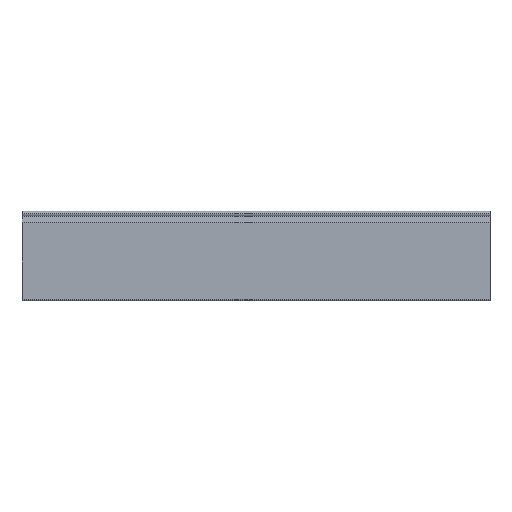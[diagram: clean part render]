
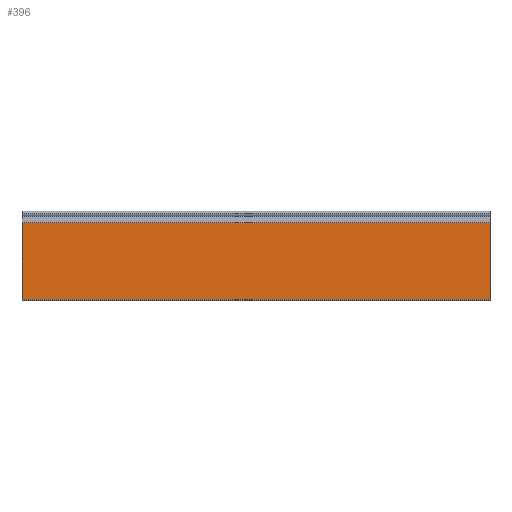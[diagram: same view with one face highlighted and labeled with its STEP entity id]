
A CAD part, top view. The second image highlights one B-rep face of the part: STEP entity #396.
In plain terms, the highlighted planar face has unit normal (0, 0, 1).
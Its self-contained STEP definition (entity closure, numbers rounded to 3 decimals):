
#48 = CARTESIAN_POINT ( 'NONE',  ( 333., -12.164, 4.05 ) ) ;
#49 = PLANE ( 'NONE',  #310 ) ;
#51 = DIRECTION ( 'NONE',  ( 0., 0., -1. ) ) ;
#52 = DIRECTION ( 'NONE',  ( 0., 1., 0. ) ) ;
#75 = CARTESIAN_POINT ( 'NONE',  ( 333., -12.164, 4.05 ) ) ;
#77 = CARTESIAN_POINT ( 'NONE',  ( 333., -121.663, 4.05 ) ) ;
#103 = CARTESIAN_POINT ( 'NONE',  ( 333., -12.164, 4.05 ) ) ;
#115 = DIRECTION ( 'NONE',  ( 0., -1., 0. ) ) ;
#250 = EDGE_LOOP ( 'NONE', ( #873, #875, #872, #871 ) ) ;
#310 = AXIS2_PLACEMENT_3D ( 'NONE', #48, #51, #52 ) ;
#396 = ADVANCED_FACE ( 'NONE', ( #830 ), #49, .F. ) ;
#420 = VERTEX_POINT ( 'NONE', #75 ) ;
#448 = CARTESIAN_POINT ( 'NONE',  ( -333., -121.663, 4.05 ) ) ;
#491 = VERTEX_POINT ( 'NONE', #77 ) ;
#511 = EDGE_CURVE ( 'NONE', #420, #491, #977, .T. ) ;
#572 = EDGE_CURVE ( 'NONE', #594, #621, #1073, .T. ) ;
#584 = EDGE_CURVE ( 'NONE', #420, #594, #1097, .T. ) ;
#585 = EDGE_CURVE ( 'NONE', #491, #621, #1099, .T. ) ;
#594 = VERTEX_POINT ( 'NONE', #1312 ) ;
#621 = VERTEX_POINT ( 'NONE', #448 ) ;
#830 = FACE_OUTER_BOUND ( 'NONE', #250, .T. ) ;
#871 = ORIENTED_EDGE ( 'NONE', *, *, #584, .T. ) ;
#872 = ORIENTED_EDGE ( 'NONE', *, *, #511, .F. ) ;
#873 = ORIENTED_EDGE ( 'NONE', *, *, #572, .T. ) ;
#875 = ORIENTED_EDGE ( 'NONE', *, *, #585, .F. ) ;
#972 = VECTOR ( 'NONE', #115, 1000. ) ;
#977 = LINE ( 'NONE', #103, #972 ) ;
#1070 = VECTOR ( 'NONE', #1298, 1000. ) ;
#1073 = LINE ( 'NONE', #1289, #1070 ) ;
#1097 = LINE ( 'NONE', #1323, #1098 ) ;
#1098 = VECTOR ( 'NONE', #1324, 1000. ) ;
#1099 = LINE ( 'NONE', #1325, #1100 ) ;
#1100 = VECTOR ( 'NONE', #1326, 1000. ) ;
#1289 = CARTESIAN_POINT ( 'NONE',  ( -333., -12.164, 4.05 ) ) ;
#1298 = DIRECTION ( 'NONE',  ( 0., -1., 0. ) ) ;
#1312 = CARTESIAN_POINT ( 'NONE',  ( -333., -12.164, 4.05 ) ) ;
#1323 = CARTESIAN_POINT ( 'NONE',  ( 333., -12.164, 4.05 ) ) ;
#1324 = DIRECTION ( 'NONE',  ( -1., 0., 0. ) ) ;
#1325 = CARTESIAN_POINT ( 'NONE',  ( 333., -121.663, 4.05 ) ) ;
#1326 = DIRECTION ( 'NONE',  ( -1., 0., 0. ) ) ;
